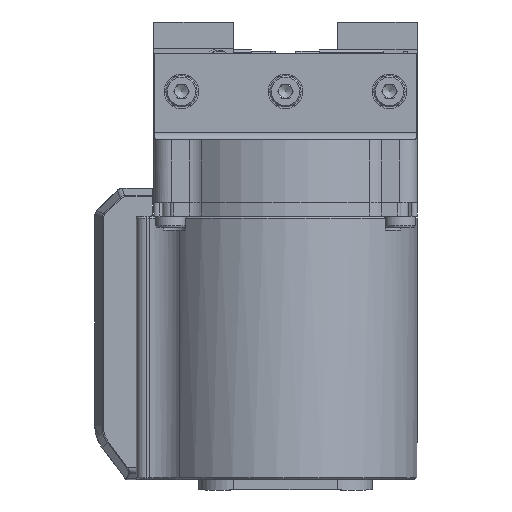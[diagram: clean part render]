
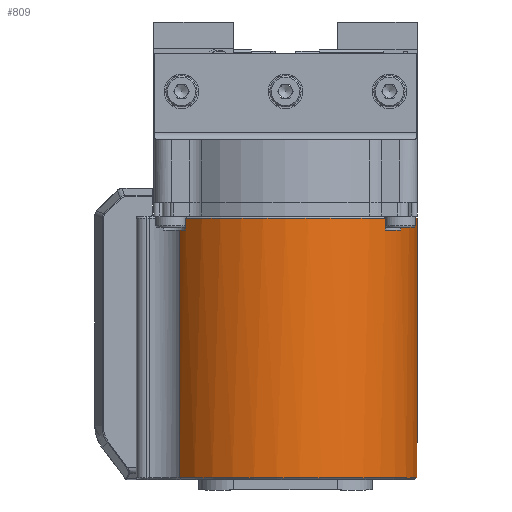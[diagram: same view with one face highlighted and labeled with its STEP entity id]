
A CAD part, front view. The second image highlights one B-rep face of the part: STEP entity #809.
In plain terms, the highlighted cylindrical face has radius 19 mm (diameter 38 mm), a partial arc.
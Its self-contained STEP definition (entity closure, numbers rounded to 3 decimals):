
#36 = CARTESIAN_POINT ( 'NONE',  ( 0., 0., -0.3 ) ) ;
#809 = ADVANCED_FACE ( 'NONE', ( #7070 ), #16140, .T. ) ;
#1207 = DIRECTION ( 'NONE',  ( 1., 0., 0. ) ) ;
#1280 = CARTESIAN_POINT ( 'NONE',  ( 18.902, 1.927, -0.3 ) ) ;
#1347 = CARTESIAN_POINT ( 'NONE',  ( 0., 0., -37.7 ) ) ;
#1390 = CIRCLE ( 'NONE', #4226, 19. ) ;
#1446 = DIRECTION ( 'NONE',  ( 0., 0., -1. ) ) ;
#1608 = ORIENTED_EDGE ( 'NONE', *, *, #11952, .F. ) ;
#3608 = EDGE_CURVE ( 'NONE', #25464, #26589, #7003, .T. ) ;
#3822 = CARTESIAN_POINT ( 'NONE',  ( 14.424, -12.367, -1. ) ) ;
#3915 = VECTOR ( 'NONE', #1446, 1000. ) ;
#4226 = AXIS2_PLACEMENT_3D ( 'NONE', #1347, #21449, #10416 ) ;
#4368 = AXIS2_PLACEMENT_3D ( 'NONE', #4536, #9003, #15846 ) ;
#4386 = ORIENTED_EDGE ( 'NONE', *, *, #21309, .T. ) ;
#4536 = CARTESIAN_POINT ( 'NONE',  ( 0., 0., -2. ) ) ;
#5240 = VERTEX_POINT ( 'NONE', #27216 ) ;
#5282 = ORIENTED_EDGE ( 'NONE', *, *, #10790, .T. ) ;
#5486 = LINE ( 'NONE', #5637, #18127 ) ;
#5500 = CARTESIAN_POINT ( 'NONE',  ( 18.902, 1.927, 20.43 ) ) ;
#5637 = CARTESIAN_POINT ( 'NONE',  ( 16.595, -9.252, -1. ) ) ;
#6075 = DIRECTION ( 'NONE',  ( 0., 0., 1. ) ) ;
#6563 = VERTEX_POINT ( 'NONE', #14292 ) ;
#6893 = CARTESIAN_POINT ( 'NONE',  ( -14.424, -12.367, -1. ) ) ;
#7003 = CIRCLE ( 'NONE', #9374, 19. ) ;
#7046 = LINE ( 'NONE', #6893, #8877 ) ;
#7070 = FACE_OUTER_BOUND ( 'NONE', #16024, .T. ) ;
#7288 = DIRECTION ( 'NONE',  ( 0., 0., -1. ) ) ;
#7294 = EDGE_CURVE ( 'NONE', #12234, #6563, #18739, .T. ) ;
#7433 = DIRECTION ( 'NONE',  ( 0., 0., -1. ) ) ;
#7510 = CARTESIAN_POINT ( 'NONE',  ( 0., 0., -27.908 ) ) ;
#8028 = LINE ( 'NONE', #5500, #29490 ) ;
#8427 = LINE ( 'NONE', #3822, #3915 ) ;
#8877 = VECTOR ( 'NONE', #16269, 1000. ) ;
#9003 = DIRECTION ( 'NONE',  ( 0., 0., 1. ) ) ;
#9374 = AXIS2_PLACEMENT_3D ( 'NONE', #36, #25203, #25048 ) ;
#9589 = DIRECTION ( 'NONE',  ( -1., 0., 0. ) ) ;
#10416 = DIRECTION ( 'NONE',  ( 1., 0., 0. ) ) ;
#10790 = EDGE_CURVE ( 'NONE', #23098, #5240, #23304, .T. ) ;
#10951 = EDGE_CURVE ( 'NONE', #23098, #16473, #8028, .T. ) ;
#11367 = VERTEX_POINT ( 'NONE', #25774 ) ;
#11952 = EDGE_CURVE ( 'NONE', #11367, #5240, #5486, .T. ) ;
#12229 = ORIENTED_EDGE ( 'NONE', *, *, #25635, .F. ) ;
#12234 = VERTEX_POINT ( 'NONE', #23016 ) ;
#12436 = ORIENTED_EDGE ( 'NONE', *, *, #28496, .F. ) ;
#12488 = VERTEX_POINT ( 'NONE', #20011 ) ;
#12834 = CIRCLE ( 'NONE', #28548, 19. ) ;
#13463 = ORIENTED_EDGE ( 'NONE', *, *, #7294, .F. ) ;
#14292 = CARTESIAN_POINT ( 'NONE',  ( -15.292, -11.276, -2. ) ) ;
#14428 = DIRECTION ( 'NONE',  ( 0., 0., 1. ) ) ;
#15846 = DIRECTION ( 'NONE',  ( 1., 0., 0. ) ) ;
#16024 = EDGE_LOOP ( 'NONE', ( #12229, #24466, #12436, #23804, #13463, #4386, #22032, #5282, #1608, #20561 ) ) ;
#16140 = CYLINDRICAL_SURFACE ( 'NONE', #17549, 19. ) ;
#16209 = CARTESIAN_POINT ( 'NONE',  ( 0., 0., -0.3 ) ) ;
#16269 = DIRECTION ( 'NONE',  ( 0., 0., 1. ) ) ;
#16360 = DIRECTION ( 'NONE',  ( 1., 0., 0. ) ) ;
#16473 = VERTEX_POINT ( 'NONE', #21034 ) ;
#16688 = VERTEX_POINT ( 'NONE', #21930 ) ;
#17549 = AXIS2_PLACEMENT_3D ( 'NONE', #7510, #25233, #9589 ) ;
#18127 = VECTOR ( 'NONE', #6075, 1000. ) ;
#18739 = LINE ( 'NONE', #25896, #21198 ) ;
#20011 = CARTESIAN_POINT ( 'NONE',  ( 14.424, -12.367, -2. ) ) ;
#20561 = ORIENTED_EDGE ( 'NONE', *, *, #23535, .F. ) ;
#21015 = CIRCLE ( 'NONE', #4368, 19. ) ;
#21034 = CARTESIAN_POINT ( 'NONE',  ( 18.902, 1.927, -37.7 ) ) ;
#21198 = VECTOR ( 'NONE', #14428, 1000. ) ;
#21309 = EDGE_CURVE ( 'NONE', #12234, #16473, #1390, .T. ) ;
#21414 = AXIS2_PLACEMENT_3D ( 'NONE', #16209, #7288, #16360 ) ;
#21449 = DIRECTION ( 'NONE',  ( 0., 0., 1. ) ) ;
#21604 = DIRECTION ( 'NONE',  ( 0., 0., 1. ) ) ;
#21930 = CARTESIAN_POINT ( 'NONE',  ( -14.424, -12.367, -2. ) ) ;
#22032 = ORIENTED_EDGE ( 'NONE', *, *, #10951, .F. ) ;
#22050 = CARTESIAN_POINT ( 'NONE',  ( 0., 0., -2. ) ) ;
#22830 = CARTESIAN_POINT ( 'NONE',  ( 14.424, -12.367, -0.3 ) ) ;
#23016 = CARTESIAN_POINT ( 'NONE',  ( -15.292, -11.276, -37.7 ) ) ;
#23098 = VERTEX_POINT ( 'NONE', #1280 ) ;
#23304 = CIRCLE ( 'NONE', #21414, 19. ) ;
#23535 = EDGE_CURVE ( 'NONE', #12488, #11367, #12834, .T. ) ;
#23804 = ORIENTED_EDGE ( 'NONE', *, *, #25764, .F. ) ;
#24466 = ORIENTED_EDGE ( 'NONE', *, *, #3608, .T. ) ;
#25048 = DIRECTION ( 'NONE',  ( 1., 0., 0. ) ) ;
#25203 = DIRECTION ( 'NONE',  ( 0., 0., -1. ) ) ;
#25233 = DIRECTION ( 'NONE',  ( 0., 0., 1. ) ) ;
#25464 = VERTEX_POINT ( 'NONE', #22830 ) ;
#25635 = EDGE_CURVE ( 'NONE', #25464, #12488, #8427, .T. ) ;
#25764 = EDGE_CURVE ( 'NONE', #6563, #16688, #21015, .T. ) ;
#25774 = CARTESIAN_POINT ( 'NONE',  ( 16.595, -9.252, -2. ) ) ;
#25896 = CARTESIAN_POINT ( 'NONE',  ( -15.292, -11.276, -44.593 ) ) ;
#26589 = VERTEX_POINT ( 'NONE', #27965 ) ;
#27216 = CARTESIAN_POINT ( 'NONE',  ( 16.595, -9.252, -0.3 ) ) ;
#27965 = CARTESIAN_POINT ( 'NONE',  ( -14.424, -12.367, -0.3 ) ) ;
#28496 = EDGE_CURVE ( 'NONE', #16688, #26589, #7046, .T. ) ;
#28548 = AXIS2_PLACEMENT_3D ( 'NONE', #22050, #21604, #1207 ) ;
#29490 = VECTOR ( 'NONE', #7433, 1000. ) ;
